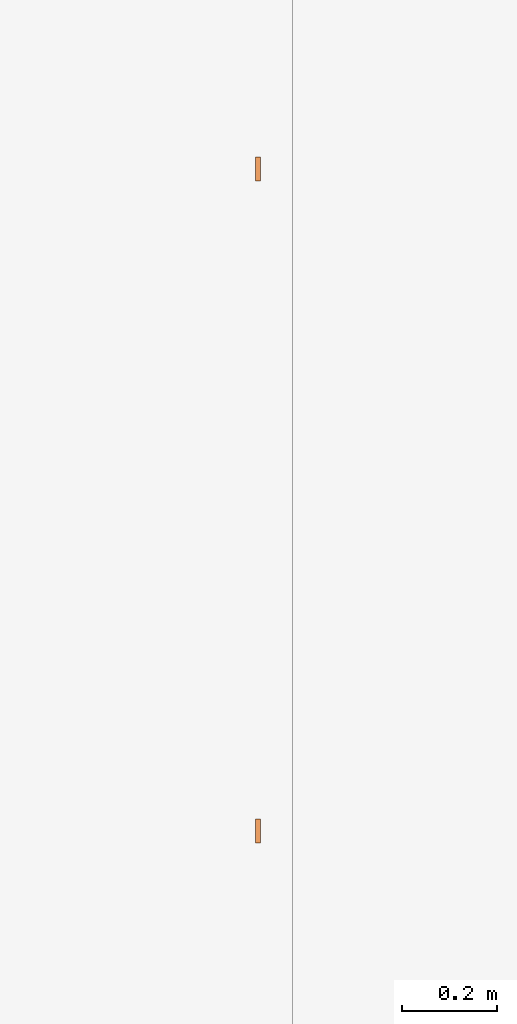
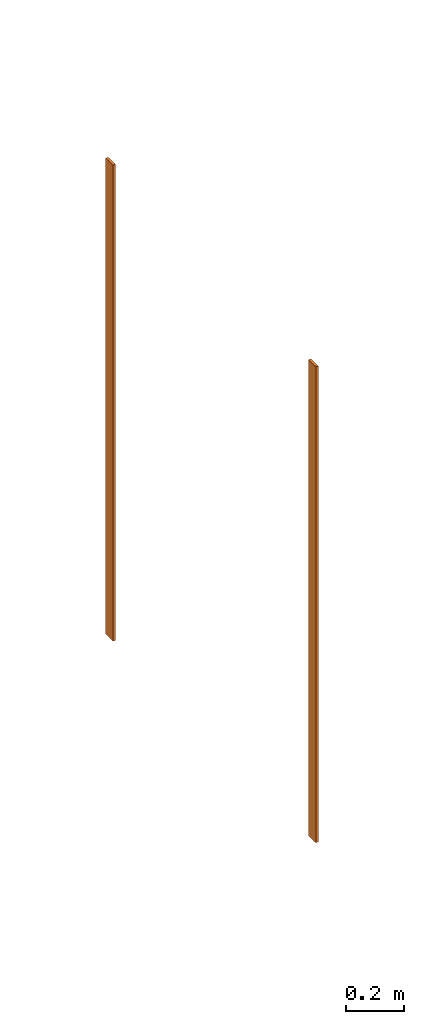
# One storey, part 5 of 7: 2 proxies.
"""IFC2X3 building model written with IfcOpenShell, lengths in millimetres."""

from ifc_helpers import new_model, entity, si_unit, converted_unit, derived_unit, direction, frame, frame_2d, origin, place, context, subcontext, project, spatial, rectangle, extrude, source, transform, mapped, material, type_object, type_shapes, element, save


model = new_model("IFC2X3")

# Units and contexts
model_context = context("Model", 3, precision=0.01, world=origin(), true_north=direction((0.7716245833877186, 0.6360782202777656)))
body_context = subcontext(model_context, "Body", "Model", "MODEL_VIEW")
ifc_project = project(units=[si_unit("LENGTHUNIT", "METRE", prefix="MILLI"), si_unit("AREAUNIT", "SQUARE_METRE"), converted_unit("PLANEANGLEUNIT", "DEGREE", entity("IfcPlaneAngleMeasure", 0.017453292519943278), si_unit("PLANEANGLEUNIT", "RADIAN"), dimensions=[0, 0, 0, 0, 0, 0, 0]), derived_unit("THERMALTRANSMITTANCEUNIT", [(si_unit("MASSUNIT", "GRAM", prefix="KILO"), 1), (si_unit("THERMODYNAMICTEMPERATUREUNIT", "KELVIN"), -1), (si_unit("TIMEUNIT", "SECOND"), -3)])], contexts=[model_context])

# Site, building, storey
site_placement = place(None, origin())
site = spatial("IfcSite", under=ifc_project, at=site_placement, Name="Default", CompositionType="ELEMENT")
building_placement = place(site_placement, origin())
building = spatial("IfcBuilding", under=site, at=building_placement, CompositionType="ELEMENT")
storey_placement = place(building_placement, frame((0.0, 0.0, 37100.0)))
storey = spatial("IfcBuildingStorey", under=building, at=storey_placement, Name="PLAN 03 (EKS. TAK)", CompositionType="ELEMENT", Elevation=37100.0)

# Proxies
ifc_material = material(Name="Aluminum")
building_element_proxy_type = type_object("IfcBuildingElementProxyType", Name="Fasade profil, VER:Fasade profil 100x50", PredefinedType="NOTDEFINED", material=ifc_material)
shared_shape = source(origin(), body_context, "Body", "SweptSolid", [
    extrude(rectangle(XDim=50.000000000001, YDim=10.000000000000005, at=frame_2d((-2.1316282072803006e-14, 0.0), x_axis=(1.0, 0.0))), frame((25.0, -5.0, 0.0), z_axis=(0.0, 0.0, 1.0), x_axis=(-1.0, 0.0, 0.0)), (0.0, 0.0, 1.0), 1989.9999999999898),
])
type_shapes(building_element_proxy_type, [shared_shape])
for number, where, z_axis, x_axis, name in (
    (1, (277990.257347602, 68789.50163955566, -3810.0), (0.0, 0.0, 1.0), (0.0, 1.0, 0.0), "Fasade profil, VER:Fasade profil 100x50"),
    (2, (277990.257347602, 70179.50163955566, -3810.0), (0.0, 0.0, 1.0), (0.0, 1.0, 0.0), "Fasade profil, VER:Fasade profil 100x50"),
):
    element("IfcBuildingElementProxy", number, at=place(storey_placement, frame(where, z_axis=z_axis, x_axis=x_axis)), inside=storey, type_object=building_element_proxy_type, material=ifc_material, Name=name, ObjectType="Fasade profil, VER:Fasade profil 100x50", context=body_context, shape_type="MappedRepresentation", body=[
        mapped(shared_shape, transform((0.0, 0.0, 0.0), scale=1.0)),
    ])

save(model, "model.ifc")
